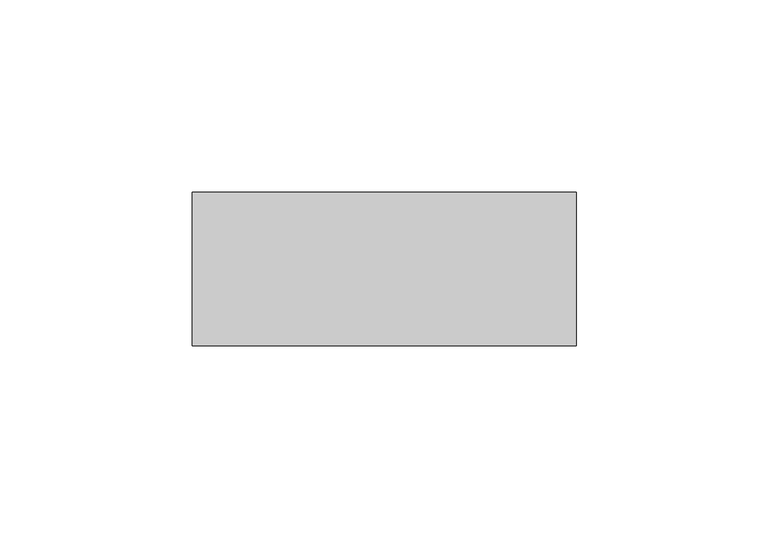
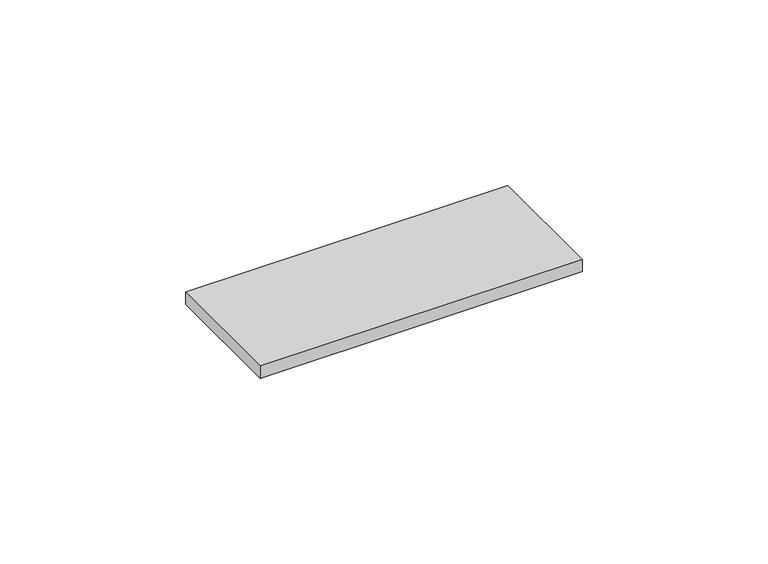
"""IFC4 building model written with IfcOpenShell, lengths in millimetres: duct fitting geometry, КНС_Переход_Полоса_Неспецифицируемое_DKC : NG3105CU_Медь_80х70 мм."""

import ifcopenshell
import ifcopenshell.guid

model = None  # the IFC model being written
_history = None  # IfcOwnerHistory: only IFC2X3 demands one
_inside = {}  # id of a spatial element -> (the spatial element, [elements in it])
_under = {}  # id of a project, library or spatial element -> (it, [spatial elements below it])
_declared = {}  # id of a project -> (the project, [libraries it declares])
_typed = {}  # id of a type object -> (the type object, [elements of that type])
_made_of = {}  # id of a material, layer set ... -> (it, [elements and type objects made of it])


def new_model(schema):
    """Start an empty IFC model of exactly this schema.

    Asked for "IFC4X3", IfcOpenShell would pick the latest addendum, in which some entities
    have other attributes; the version numbers below select the first issue.
    IFC2X3 requires an IfcOwnerHistory on every rooted entity: one is made here for all.
    """
    global model, _history
    if schema == "IFC4X3":
        model = ifcopenshell.file(schema_version=(4, 3, 0, 0))
    else:
        model = ifcopenshell.file(schema=schema)
    _inside.clear()
    _under.clear()
    _declared.clear()
    _typed.clear()
    _made_of.clear()
    _history = None
    if model.schema == "IFC2X3":
        org = make("IfcOrganization", Name="unknown")
        user = make(
            "IfcPersonAndOrganization",
            ThePerson=make("IfcPerson", FamilyName="unknown"),
            TheOrganization=org,
        )
        app = make(
            "IfcApplication",
            ApplicationDeveloper=org,
            Version="unknown",
            ApplicationFullName="unknown",
            ApplicationIdentifier="unknown",
        )
        _history = make(
            "IfcOwnerHistory",
            OwningUser=user,
            OwningApplication=app,
            ChangeAction="ADDED",
            CreationDate=0,
        )
    return model


def make(cls, **values):
    """One entity of the class cls with the attributes given. An attribute that is None is left unset."""
    return model.create_entity(
        cls, **{name: value for name, value in values.items() if value is not None}
    )


def rooted(cls, **values):
    """An entity with a GlobalId (a new one), such as an element, a storey or a relation."""
    return make(cls, GlobalId=ifcopenshell.guid.new(), OwnerHistory=_history, **values)


def si_unit(unit_type, name, prefix=None):
    """IfcSIUnit, for example si_unit("LENGTHUNIT", "METRE", prefix="MILLI")."""
    return make("IfcSIUnit", UnitType=unit_type, Prefix=prefix, Name=name)


def assignment(units):
    """IfcUnitAssignment: the units of a project."""
    return None if units is None else make("IfcUnitAssignment", Units=units)


def point(xyz):
    """IfcCartesianPoint."""
    return None if xyz is None else make("IfcCartesianPoint", Coordinates=xyz)


def direction(xyz):
    """IfcDirection."""
    return None if xyz is None else make("IfcDirection", DirectionRatios=xyz)


def frame(location, z_axis=None, x_axis=None):
    """IfcAxis2Placement3D, a coordinate frame: its origin and axes. An axis left out is left unset."""
    return make(
        "IfcAxis2Placement3D",
        Location=point(location),
        Axis=direction(z_axis),
        RefDirection=direction(x_axis),
    )


def origin():
    """The frame at (0, 0, 0) with its axes left unset."""
    return frame((0.0, 0.0, 0.0))


def place(relative_to, where):
    """IfcLocalPlacement: puts the frame where relative to a parent placement (None: the world)."""
    return make(
        "IfcLocalPlacement", PlacementRelTo=relative_to, RelativePlacement=where
    )


def context(
    kind, dimensions, precision=None, world=None, true_north=None, identifier=None
):
    """IfcGeometricRepresentationContext, for example the 3D "Model" context."""
    return make(
        "IfcGeometricRepresentationContext",
        ContextIdentifier=identifier,
        ContextType=kind,
        CoordinateSpaceDimension=dimensions,
        Precision=precision,
        WorldCoordinateSystem=world,
        TrueNorth=true_north,
    )


def project(units=None, contexts=None):
    """IfcProject with its units and contexts."""
    return rooted(
        "IfcProject",
        Name="project",
        RepresentationContexts=contexts,
        UnitsInContext=assignment(units),
    )


def spatial(cls, under=None, at=None, **own):
    """A site, building, storey or space (cls), placed at a placement, below another one or the project."""
    s = rooted(cls, ObjectPlacement=at, **own)
    if under is not None:
        _under.setdefault(under.id(), (under, []))[1].append(s)
    return s


def polyline(points):
    """IfcPolyline through the points."""
    return make("IfcPolyline", Points=[point(p) for p in points])


def outline(outer, holes=None, kind="AREA"):
    """IfcArbitraryClosedProfileDef: a profile drawn as a closed curve; with holes, ...WithVoids."""
    if holes is None:
        return make("IfcArbitraryClosedProfileDef", ProfileType=kind, OuterCurve=outer)
    return make(
        "IfcArbitraryProfileDefWithVoids",
        ProfileType=kind,
        OuterCurve=outer,
        InnerCurves=holes,
    )


def extrude(swept, where, along, depth):
    """IfcExtrudedAreaSolid: the profile swept, set in the frame where, extruded along a direction by depth."""
    return make(
        "IfcExtrudedAreaSolid",
        SweptArea=swept,
        Position=where,
        ExtrudedDirection=direction(along),
        Depth=depth,
    )


def shape(context_of_items, identifier, shape_type, items):
    """IfcShapeRepresentation: the items that make up one representation, for example the "Body"."""
    return make(
        "IfcShapeRepresentation",
        ContextOfItems=context_of_items,
        RepresentationIdentifier=identifier,
        RepresentationType=shape_type,
        Items=items,
    )


def source(mapping_origin, context_of_items, identifier, shape_type, items):
    """IfcRepresentationMap: a shape defined once, which mapped items show again and again."""
    return make(
        "IfcRepresentationMap",
        MappingOrigin=mapping_origin,
        MappedRepresentation=shape(context_of_items, identifier, shape_type, items),
    )


def transform(
    local_origin,
    x_axis=None,
    y_axis=None,
    z_axis=None,
    scale=None,
    scale2=None,
    scale3=None,
    uniform=True,
):
    """IfcCartesianTransformationOperator3D, or its non-uniform kind. x_axis, y_axis, z_axis: its Axis1, 2, 3."""
    if uniform:
        return make(
            "IfcCartesianTransformationOperator3D",
            Axis1=direction(x_axis),
            Axis2=direction(y_axis),
            LocalOrigin=point(local_origin),
            Scale=scale,
            Axis3=direction(z_axis),
        )
    return make(
        "IfcCartesianTransformationOperator3DnonUniform",
        Axis1=direction(x_axis),
        Axis2=direction(y_axis),
        LocalOrigin=point(local_origin),
        Scale=scale,
        Axis3=direction(z_axis),
        Scale2=scale2,
        Scale3=scale3,
    )


def mapped(mapping_source, mapping_target):
    """IfcMappedItem: shows the shape of a source again, moved by a transform."""
    return make(
        "IfcMappedItem", MappingSource=mapping_source, MappingTarget=mapping_target
    )


def made_of(thing, what):
    """Note that an element or type object is made of a material, layer set ...; save() writes the relation."""
    if what is not None:
        _made_of.setdefault(what.id(), (what, []))[1].append(thing)
    return thing


def element(
    cls,
    number,
    at=None,
    inside=None,
    cuts=None,
    type_object=None,
    material=None,
    context=None,
    identifier="Body",
    shape_type=None,
    held_by="IfcProductDefinitionShape",
    body=None,
    shapes=None,
    **own,
):
    """One element of the class cls, such as IfcWall. Its Tag is "e" and its number.

    at: its placement. inside: the storey or other place that contains it. cuts: it is an
    opening in that element (IfcRelVoidsElement). A single representation is given by context,
    identifier, shape_type and body (its items); several are given by shapes. held_by: the class
    of the entity that holds the representations. save() writes the other relations.
    """
    e = rooted(cls, Tag="e%d" % number, ObjectPlacement=at, **own)
    if body is not None:
        shapes = [shape(context, identifier, shape_type, body)]
    if shapes is not None:
        e.Representation = make(held_by, Representations=shapes)
    if inside is not None:
        _inside.setdefault(inside.id(), (inside, []))[1].append(e)
    if cuts is not None:
        rooted(
            "IfcRelVoidsElement", RelatingBuildingElement=cuts, RelatedOpeningElement=e
        )
    if type_object is not None:
        _typed.setdefault(type_object.id(), (type_object, []))[1].append(e)
    return made_of(e, material)


def aggregate(whole, parts):
    """IfcRelAggregates: a whole, such as a stair, and the parts it consists of."""
    return rooted("IfcRelAggregates", RelatingObject=whole, RelatedObjects=parts)


def save(model, path):
    """Write the relations noted so far, then the file.

    IfcRelAggregates (storeys below a building ...), IfcRelContainedInSpatialStructure (elements
    in a storey), IfcRelDefinesByType, IfcRelAssociatesMaterial and IfcRelDeclares: one each for
    every whole, place, type object, material and project.
    """
    for whole, parts in _under.values():
        aggregate(whole, parts)
    for where, things in _inside.values():
        rooted(
            "IfcRelContainedInSpatialStructure",
            RelatedElements=things,
            RelatingStructure=where,
        )
    for kind, things in _typed.values():
        rooted("IfcRelDefinesByType", RelatedObjects=things, RelatingType=kind)
    for what, things in _made_of.values():
        rooted("IfcRelAssociatesMaterial", RelatedObjects=things, RelatingMaterial=what)
    for by, libraries in _declared.values():
        rooted("IfcRelDeclares", RelatingContext=by, RelatedDefinitions=libraries)
    model.write(path)


def duct_fitting_08c6bc62(model_context):
    return source(origin(), model_context, "Body", "SweptSolid", [
        extrude(outline(polyline([(-58.75, -20.0), (-58.75, 20.0), (41.25, 20.0), (41.25, -20.0), (-58.75, -20.0)])), frame((0.0, 0.0, -2.0), z_axis=(0.0, 0.0, 1.0), x_axis=(1.0, 0.0, 0.0)), (0.0, 0.0, 1.0), 4.0),
    ])


if __name__ == "__main__":
    model = new_model("IFC4")
    model_context = context("Model", 3, world=origin())
    ifc_project = project(units=[si_unit("LENGTHUNIT", "METRE", prefix="MILLI")], contexts=[model_context])
    site = spatial("IfcSite", under=ifc_project)
    building = spatial("IfcBuilding", under=site)
    placement = place(None, origin())
    duct_fitting_shape = duct_fitting_08c6bc62(model_context)
    element("IfcDuctFitting", 1, ObjectType="КНС_Переход_Полоса_Неспецифицируемое_DKC : NG3105CU_Медь_80х70 мм", at=placement, inside=building, context=model_context, shape_type="MappedRepresentation", body=[
        mapped(duct_fitting_shape, transform((0.0, 0.0, 0.0), x_axis=(1.0, 0.0, 0.0), y_axis=(0.0, 1.0, 0.0), z_axis=(0.0, 0.0, 1.0))),
    ])
    save(model, "model.ifc")
